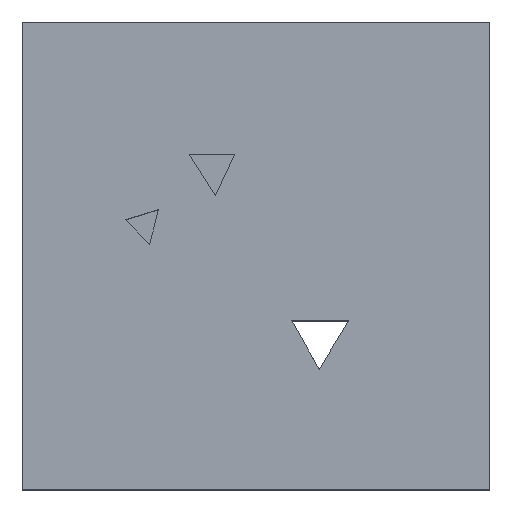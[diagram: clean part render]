
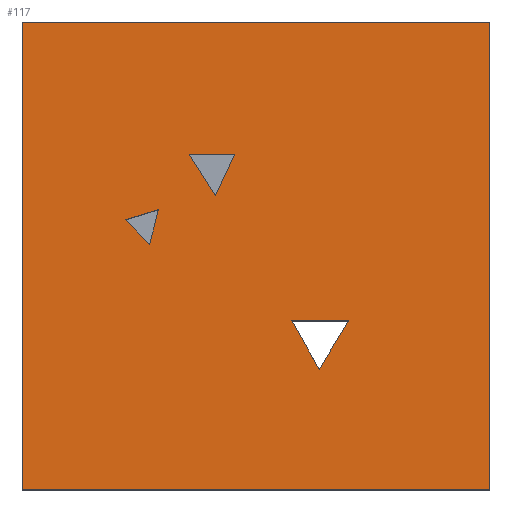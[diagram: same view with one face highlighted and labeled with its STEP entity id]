
A CAD part, top view. The second image highlights one B-rep face of the part: STEP entity #117.
In plain terms, the highlighted planar face has unit normal (0, 0, 1).
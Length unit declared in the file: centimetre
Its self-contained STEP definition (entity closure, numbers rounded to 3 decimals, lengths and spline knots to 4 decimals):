
#8 = LINE ( 'NONE', #1381, #1303 ) ;
#53 = CARTESIAN_POINT ( 'NONE',  ( 412.9249, 628.2202, 1000. ) ) ;
#69 = CARTESIAN_POINT ( 'NONE',  ( 454.4668, 716.8539, 1000. ) ) ;
#77 = VECTOR ( 'NONE', #361, 100. ) ;
#85 = EDGE_CURVE ( 'NONE', #744, #2170, #1238, .T. ) ;
#93 = VERTEX_POINT ( 'NONE', #1284 ) ;
#99 = CARTESIAN_POINT ( 'NONE',  ( 412.9249, 628.2202, 1000. ) ) ;
#107 = VECTOR ( 'NONE', #2133, 100. ) ;
#117 = ADVANCED_FACE ( 'NONE', ( #1601, #932, #1973, #387 ), #2116, .T. ) ;
#131 = CARTESIAN_POINT ( 'NONE',  ( 576.4341, 361.087, 1000. ) ) ;
#171 = EDGE_LOOP ( 'NONE', ( #357, #1224, #683 ) ) ;
#194 = EDGE_CURVE ( 'NONE', #1649, #2088, #1059, .T. ) ;
#224 = VECTOR ( 'NONE', #1813, 100. ) ;
#238 = CARTESIAN_POINT ( 'NONE',  ( 635.3204, 256.568, 1000. ) ) ;
#239 = VERTEX_POINT ( 'NONE', #462 ) ;
#240 = EDGE_LOOP ( 'NONE', ( #1896, #1600, #515 ) ) ;
#257 = LINE ( 'NONE', #1678, #891 ) ;
#267 = VECTOR ( 'NONE', #1674, 100. ) ;
#271 = VERTEX_POINT ( 'NONE', #778 ) ;
#305 = CARTESIAN_POINT ( 'NONE',  ( 698.58, 361.087, 1000. ) ) ;
#313 = VECTOR ( 'NONE', #1919, 100. ) ;
#329 = LINE ( 'NONE', #1544, #1216 ) ;
#357 = ORIENTED_EDGE ( 'NONE', *, *, #194, .F. ) ;
#358 = CARTESIAN_POINT ( 'NONE',  ( 0., 1000., 1000. ) ) ;
#361 = DIRECTION ( 'NONE',  ( 0.534, -0.845, 0. ) ) ;
#374 = CARTESIAN_POINT ( 'NONE',  ( 635.3204, 256.568, 1000. ) ) ;
#387 = FACE_OUTER_BOUND ( 'NONE', #2110, .T. ) ;
#394 = EDGE_CURVE ( 'NONE', #93, #1360, #1173, .T. ) ;
#415 = VECTOR ( 'NONE', #1006, 100. ) ;
#462 = CARTESIAN_POINT ( 'NONE',  ( 272.4711, 524.1787, 1000. ) ) ;
#515 = ORIENTED_EDGE ( 'NONE', *, *, #1268, .F. ) ;
#600 = DIRECTION ( 'NONE',  ( -0.518, -0.856, 0. ) ) ;
#604 = LINE ( 'NONE', #53, #2230 ) ;
#683 = ORIENTED_EDGE ( 'NONE', *, *, #1428, .F. ) ;
#689 = ORIENTED_EDGE ( 'NONE', *, *, #85, .T. ) ;
#722 = DIRECTION ( 'NONE',  ( 0.707, -0.707, 0. ) ) ;
#735 = DIRECTION ( 'NONE',  ( 0., -1., 0. ) ) ;
#741 = CARTESIAN_POINT ( 'NONE',  ( 0., 0., 1000. ) ) ;
#744 = VERTEX_POINT ( 'NONE', #1617 ) ;
#767 = CARTESIAN_POINT ( 'NONE',  ( 356.9367, 716.8539, 1000. ) ) ;
#778 = CARTESIAN_POINT ( 'NONE',  ( 1000., 1000., 1000. ) ) ;
#786 = EDGE_CURVE ( 'NONE', #1072, #2226, #1409, .T. ) ;
#826 = CARTESIAN_POINT ( 'NONE',  ( 0., 1000., 1000. ) ) ;
#830 = CARTESIAN_POINT ( 'NONE',  ( 291.0204, 598.5944, 1000. ) ) ;
#891 = VECTOR ( 'NONE', #1659, 100. ) ;
#931 = VERTEX_POINT ( 'NONE', #1843 ) ;
#932 = FACE_BOUND ( 'NONE', #240, .T. ) ;
#940 = VECTOR ( 'NONE', #735, 100. ) ;
#944 = LINE ( 'NONE', #374, #1323 ) ;
#1006 = DIRECTION ( 'NONE',  ( 1., 0., 0. ) ) ;
#1035 = LINE ( 'NONE', #131, #2223 ) ;
#1059 = LINE ( 'NONE', #767, #77 ) ;
#1072 = VERTEX_POINT ( 'NONE', #826 ) ;
#1114 = CARTESIAN_POINT ( 'NONE',  ( 219.8943, 576.7555, 1000. ) ) ;
#1173 = LINE ( 'NONE', #830, #267 ) ;
#1216 = VECTOR ( 'NONE', #1373, 100. ) ;
#1224 = ORIENTED_EDGE ( 'NONE', *, *, #1280, .F. ) ;
#1227 = LINE ( 'NONE', #2075, #313 ) ;
#1238 = LINE ( 'NONE', #305, #415 ) ;
#1268 = EDGE_CURVE ( 'NONE', #1360, #239, #8, .T. ) ;
#1272 = DIRECTION ( 'NONE',  ( 1., 0., 0. ) ) ;
#1273 = LINE ( 'NONE', #741, #107 ) ;
#1280 = EDGE_CURVE ( 'NONE', #2057, #1649, #1227, .T. ) ;
#1284 = CARTESIAN_POINT ( 'NONE',  ( 291.0204, 598.5944, 1000. ) ) ;
#1303 = VECTOR ( 'NONE', #722, 100. ) ;
#1323 = VECTOR ( 'NONE', #600, 100. ) ;
#1346 = EDGE_CURVE ( 'NONE', #2226, #931, #1273, .T. ) ;
#1360 = VERTEX_POINT ( 'NONE', #1114 ) ;
#1373 = DIRECTION ( 'NONE',  ( -1., 0., 0. ) ) ;
#1381 = CARTESIAN_POINT ( 'NONE',  ( 219.8943, 576.7555, 1000. ) ) ;
#1409 = LINE ( 'NONE', #358, #940 ) ;
#1428 = EDGE_CURVE ( 'NONE', #2088, #2057, #604, .T. ) ;
#1453 = ORIENTED_EDGE ( 'NONE', *, *, #2193, .T. ) ;
#1473 = EDGE_CURVE ( 'NONE', #931, #271, #2149, .T. ) ;
#1521 = ORIENTED_EDGE ( 'NONE', *, *, #1346, .T. ) ;
#1539 = DIRECTION ( 'NONE',  ( -0.491, 0.871, 0. ) ) ;
#1544 = CARTESIAN_POINT ( 'NONE',  ( 0., 1000., 1000. ) ) ;
#1599 = CARTESIAN_POINT ( 'NONE',  ( 0., 0., 1000. ) ) ;
#1600 = ORIENTED_EDGE ( 'NONE', *, *, #2064, .F. ) ;
#1601 = FACE_BOUND ( 'NONE', #1763, .T. ) ;
#1617 = CARTESIAN_POINT ( 'NONE',  ( 576.4341, 361.087, 1000. ) ) ;
#1649 = VERTEX_POINT ( 'NONE', #2259 ) ;
#1659 = DIRECTION ( 'NONE',  ( 0.242, 0.97, 0. ) ) ;
#1669 = ORIENTED_EDGE ( 'NONE', *, *, #1473, .T. ) ;
#1674 = DIRECTION ( 'NONE',  ( -0.956, -0.294, 0. ) ) ;
#1678 = CARTESIAN_POINT ( 'NONE',  ( 272.4711, 524.1787, 1000. ) ) ;
#1713 = ORIENTED_EDGE ( 'NONE', *, *, #786, .T. ) ;
#1728 = AXIS2_PLACEMENT_3D ( 'NONE', #1951, #1937, #1272 ) ;
#1736 = ORIENTED_EDGE ( 'NONE', *, *, #1808, .T. ) ;
#1763 = EDGE_LOOP ( 'NONE', ( #1736, #1453, #689 ) ) ;
#1789 = EDGE_CURVE ( 'NONE', #271, #1072, #329, .T. ) ;
#1808 = EDGE_CURVE ( 'NONE', #2170, #1907, #944, .T. ) ;
#1813 = DIRECTION ( 'NONE',  ( 0., 1., 0. ) ) ;
#1843 = CARTESIAN_POINT ( 'NONE',  ( 1000., 0., 1000. ) ) ;
#1893 = ORIENTED_EDGE ( 'NONE', *, *, #1789, .T. ) ;
#1896 = ORIENTED_EDGE ( 'NONE', *, *, #394, .F. ) ;
#1907 = VERTEX_POINT ( 'NONE', #238 ) ;
#1919 = DIRECTION ( 'NONE',  ( -1., 0., 0. ) ) ;
#1937 = DIRECTION ( 'NONE',  ( 0., 0., 1. ) ) ;
#1951 = CARTESIAN_POINT ( 'NONE',  ( 0., 0., 1000. ) ) ;
#1973 = FACE_BOUND ( 'NONE', #171, .T. ) ;
#1978 = CARTESIAN_POINT ( 'NONE',  ( 1000., 1000., 1000. ) ) ;
#1990 = DIRECTION ( 'NONE',  ( 0.424, 0.905, 0. ) ) ;
#2057 = VERTEX_POINT ( 'NONE', #69 ) ;
#2064 = EDGE_CURVE ( 'NONE', #239, #93, #257, .T. ) ;
#2075 = CARTESIAN_POINT ( 'NONE',  ( 454.4668, 716.8539, 1000. ) ) ;
#2088 = VERTEX_POINT ( 'NONE', #99 ) ;
#2110 = EDGE_LOOP ( 'NONE', ( #1713, #1521, #1669, #1893 ) ) ;
#2116 = PLANE ( 'NONE',  #1728 ) ;
#2133 = DIRECTION ( 'NONE',  ( 1., 0., 0. ) ) ;
#2149 = LINE ( 'NONE', #1978, #224 ) ;
#2170 = VERTEX_POINT ( 'NONE', #2246 ) ;
#2193 = EDGE_CURVE ( 'NONE', #1907, #744, #1035, .T. ) ;
#2223 = VECTOR ( 'NONE', #1539, 100. ) ;
#2226 = VERTEX_POINT ( 'NONE', #1599 ) ;
#2230 = VECTOR ( 'NONE', #1990, 100. ) ;
#2246 = CARTESIAN_POINT ( 'NONE',  ( 698.58, 361.087, 1000. ) ) ;
#2259 = CARTESIAN_POINT ( 'NONE',  ( 356.9367, 716.8539, 1000. ) ) ;
